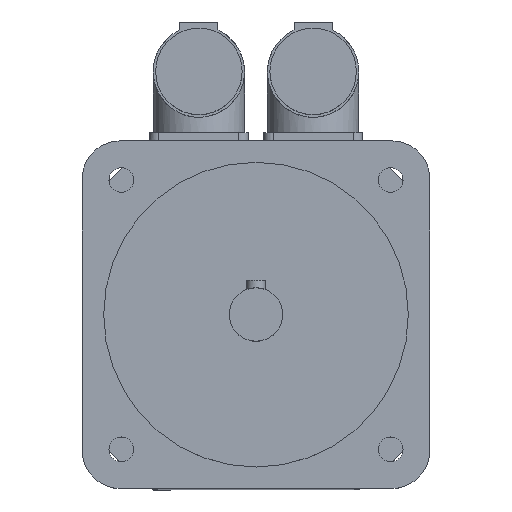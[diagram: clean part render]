
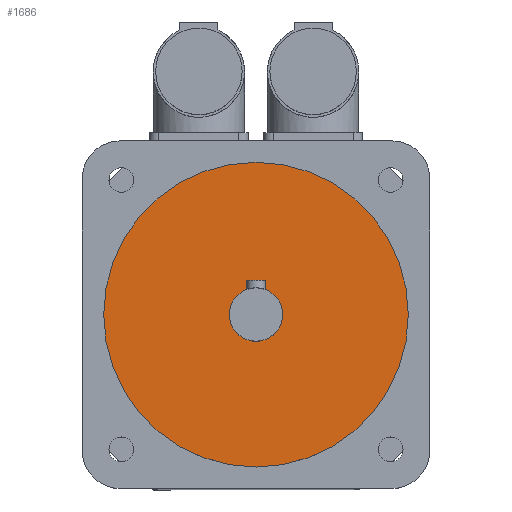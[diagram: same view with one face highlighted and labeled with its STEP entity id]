
A CAD part, top view. The second image highlights one B-rep face of the part: STEP entity #1686.
In plain terms, the highlighted planar face has unit normal (0, 0, 1).
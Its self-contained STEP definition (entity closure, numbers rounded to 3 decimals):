
#28=FACE_BOUND('',#305,.T.);
#53=CIRCLE('',#1788,7.);
#54=CIRCLE('',#1791,40.);
#202=FACE_OUTER_BOUND('',#304,.T.);
#304=EDGE_LOOP('',(#1158));
#305=EDGE_LOOP('',(#1159));
#718=VERTEX_POINT('',#2569);
#719=VERTEX_POINT('',#2573);
#892=EDGE_CURVE('',#718,#718,#53,.T.);
#893=EDGE_CURVE('',#719,#719,#54,.T.);
#1158=ORIENTED_EDGE('',*,*,#893,.T.);
#1159=ORIENTED_EDGE('',*,*,#892,.T.);
#1633=PLANE('',#1793);
#1686=ADVANCED_FACE('',(#202,#28),#1633,.T.);
#1788=AXIS2_PLACEMENT_3D('',#2570,#2000,#2001);
#1791=AXIS2_PLACEMENT_3D('',#2574,#2006,#2007);
#1793=AXIS2_PLACEMENT_3D('',#2577,#2010,#2011);
#2000=DIRECTION('center_axis',(0.,0.,-1.));
#2001=DIRECTION('ref_axis',(-1.,0.,0.));
#2006=DIRECTION('center_axis',(0.,0.,1.));
#2007=DIRECTION('ref_axis',(-1.,0.,0.));
#2010=DIRECTION('center_axis',(0.,0.,1.));
#2011=DIRECTION('ref_axis',(1.,0.,0.));
#2569=CARTESIAN_POINT('',(7.,0.,200.));
#2570=CARTESIAN_POINT('Origin',(0.,0.,200.));
#2573=CARTESIAN_POINT('',(40.,0.,200.));
#2574=CARTESIAN_POINT('Origin',(0.,0.,200.));
#2577=CARTESIAN_POINT('Origin',(0.,0.,
200.));
